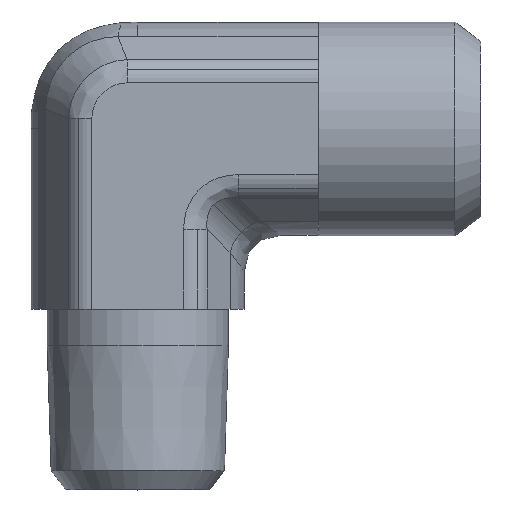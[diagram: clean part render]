
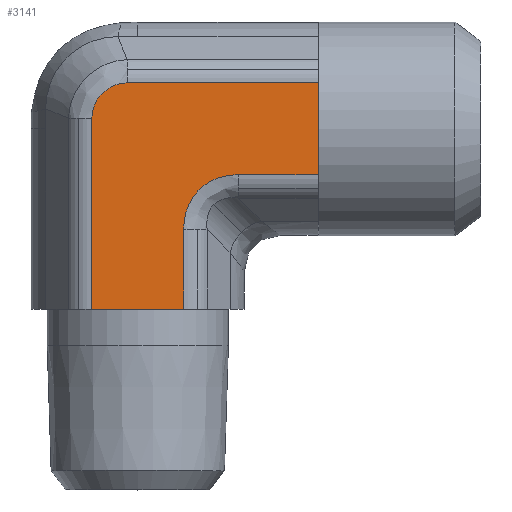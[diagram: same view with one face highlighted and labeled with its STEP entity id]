
A CAD part, top view. The second image highlights one B-rep face of the part: STEP entity #3141.
In plain terms, the highlighted planar face has unit normal (0, 0, 1) as drawn and (0, -1, 0) by its records, which use the part's own axes.
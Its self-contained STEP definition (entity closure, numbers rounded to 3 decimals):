
#361=CARTESIAN_POINT('',(1.071,-5.9,2.54));
#362=VERTEX_POINT('',#361);
#370=CARTESIAN_POINT('',(5.5,-5.9,2.54));
#371=VERTEX_POINT('',#370);
#372=CARTESIAN_POINT('',(1.071,-5.9,2.54));
#373=DIRECTION('',(1.0,0.0,0.0));
#374=VECTOR('',#373,4.429);
#375=LINE('',#372,#374);
#376=EDGE_CURVE('',#362,#371,#375,.T.);
#485=CARTESIAN_POINT('',(-7.04,-5.9,-0.585));
#486=VERTEX_POINT('',#485);
#494=CARTESIAN_POINT('',(-7.04,-5.9,10.0));
#495=VERTEX_POINT('',#494);
#496=CARTESIAN_POINT('',(-7.04,-5.9,-0.585));
#497=DIRECTION('',(0.0,0.0,1.0));
#498=VECTOR('',#497,10.585);
#499=LINE('',#496,#498);
#500=EDGE_CURVE('',#486,#495,#499,.T.);
#2146=CARTESIAN_POINT('',(-4.5,-5.9,10.0));
#2147=VERTEX_POINT('',#2146);
#2227=CARTESIAN_POINT('',(-4.5,-5.9,10.0));
#2228=DIRECTION('',(-1.0,0.0,0.0));
#2229=VECTOR('',#2228,2.54);
#2230=LINE('',#2227,#2229);
#2231=EDGE_CURVE('',#2147,#495,#2230,.T.);
#2296=CARTESIAN_POINT('',(-1.96,-5.9,10.0));
#2297=VERTEX_POINT('',#2296);
#2298=CARTESIAN_POINT('',(-1.96,-5.9,10.0));
#2299=DIRECTION('',(-1.0,0.0,0.0));
#2300=VECTOR('',#2299,2.54);
#2301=LINE('',#2298,#2300);
#2302=EDGE_CURVE('',#2297,#2147,#2301,.T.);
#2384=CARTESIAN_POINT('',(5.5,-5.9,-2.54));
#2385=VERTEX_POINT('',#2384);
#2386=CARTESIAN_POINT('',(5.5,-5.9,-2.54));
#2387=DIRECTION('',(0.0,0.0,1.0));
#2388=VECTOR('',#2387,5.081);
#2389=LINE('',#2386,#2388);
#2390=EDGE_CURVE('',#2385,#371,#2389,.T.);
#2826=CARTESIAN_POINT('',(-5.085,-5.9,-2.54));
#2827=VERTEX_POINT('',#2826);
#2835=CARTESIAN_POINT('',(-7.04,-5.9,-0.585));
#2836=CARTESIAN_POINT('',(-7.04,-5.9,-0.712));
#2837=CARTESIAN_POINT('',(-7.027,-5.9,-0.841));
#2838=CARTESIAN_POINT('',(-6.961,-5.9,-1.168));
#2839=CARTESIAN_POINT('',(-6.889,-5.9,-1.36));
#2840=CARTESIAN_POINT('',(-6.626,-5.9,-1.825));
#2841=CARTESIAN_POINT('',(-6.394,-5.9,-2.068));
#2842=CARTESIAN_POINT('',(-5.806,-5.9,-2.436));
#2843=CARTESIAN_POINT('',(-5.446,-5.9,-2.54));
#2844=CARTESIAN_POINT('',(-5.085,-5.9,-2.54));
#2845=B_SPLINE_CURVE_WITH_KNOTS('',3,(#2835,#2836,#2837,#2838,#2839,#2840,#2841,#2842,#2843,#2844),.UNSPECIFIED.,.F.,.U.,(4,2,2,2,4),(-3.052,-2.67,-2.06,-1.083,0.0),.UNSPECIFIED.);
#2846=EDGE_CURVE('',#2827,#486,#2845,.F.);
#2873=CARTESIAN_POINT('',(5.5,-5.9,-2.54));
#2874=DIRECTION('',(-1.0,0.0,0.0));
#2875=VECTOR('',#2874,10.585);
#2876=LINE('',#2873,#2875);
#2877=EDGE_CURVE('',#2385,#2827,#2876,.T.);
#3009=CARTESIAN_POINT('',(-1.96,-5.9,5.571));
#3010=VERTEX_POINT('',#3009);
#3011=CARTESIAN_POINT('',(-1.96,-5.9,10.0));
#3012=DIRECTION('',(0.0,0.0,-1.0));
#3013=VECTOR('',#3012,4.429);
#3014=LINE('',#3011,#3013);
#3015=EDGE_CURVE('',#2297,#3010,#3014,.T.);
#3098=CARTESIAN_POINT('',(2.082,-5.9,6.582));
#3099=DIRECTION('',(0.,-1.0,0.));
#3100=DIRECTION('',(-0.707,0.,-0.707));
#3101=AXIS2_PLACEMENT_3D('',#3098,#3099,#3100);
#3102=ELLIPSE('',#3101,4.518,3.5);
#3103=EDGE_CURVE('',#3010,#362,#3102,.T.);
#3125=CARTESIAN_POINT('',(-4.5,-5.9,-3.175));
#3126=DIRECTION('',(0.0,-1.0,0.0));
#3127=DIRECTION('',(0.0,0.0,-1.0));
#3128=AXIS2_PLACEMENT_3D('',#3125,#3126,#3127);
#3129=PLANE('',#3128);
#3130=ORIENTED_EDGE('',*,*,#2877,.F.);
#3131=ORIENTED_EDGE('',*,*,#2390,.T.);
#3132=ORIENTED_EDGE('',*,*,#376,.F.);
#3133=ORIENTED_EDGE('',*,*,#3103,.F.);
#3134=ORIENTED_EDGE('',*,*,#3015,.F.);
#3135=ORIENTED_EDGE('',*,*,#2302,.T.);
#3136=ORIENTED_EDGE('',*,*,#2231,.T.);
#3137=ORIENTED_EDGE('',*,*,#500,.F.);
#3138=ORIENTED_EDGE('',*,*,#2846,.F.);
#3139=EDGE_LOOP('',(#3130,#3131,#3132,#3133,#3134,#3135,#3136,#3137,#3138));
#3140=FACE_OUTER_BOUND('',#3139,.T.);
#3141=ADVANCED_FACE('',(#3140),#3129,.T.);
